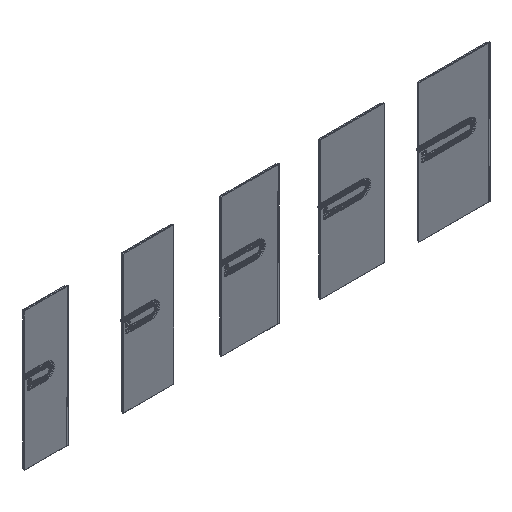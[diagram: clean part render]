
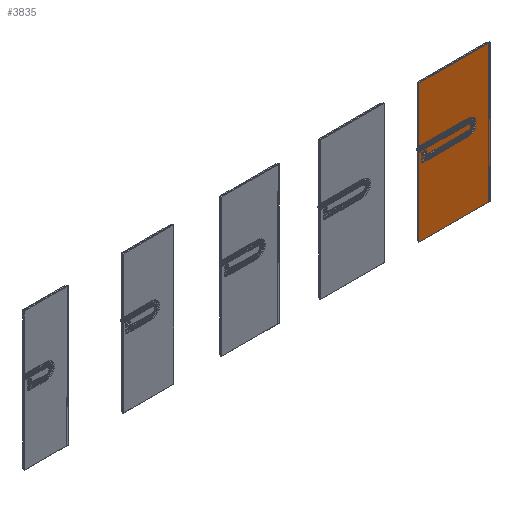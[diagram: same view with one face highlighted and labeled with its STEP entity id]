
A CAD part, isometric view. The second image highlights one B-rep face of the part: STEP entity #3835.
In plain terms, the highlighted planar face has unit normal (0, -1, 0).
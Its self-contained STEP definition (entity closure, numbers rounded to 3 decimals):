
#2323=FACE_OUTER_BOUND('',#7497,.T.);
#3835=ADVANCED_FACE('',(#2323),#4883,.F.);
#4883=PLANE('',#26441);
#5973=CIRCLE('',#26432,71.);
#5974=CIRCLE('',#26433,59.);
#5975=CIRCLE('',#26434,9.);
#5976=CIRCLE('',#26435,41.);
#5977=CIRCLE('',#26436,119.);
#5978=CIRCLE('',#26437,9.);
#5979=CIRCLE('',#26438,101.);
#5980=CIRCLE('',#26439,89.);
#5981=CIRCLE('',#26440,9.);
#7497=EDGE_LOOP('',(#11921,#11922,#11923,#11924,#11925,#11926,#11927,#11928,
#11929,#11930,#11931,#11932,#11933,#11934,#11935,#11936,#11937,#11938,#11939,
#11940,#11941,#11942,#11943,#11944,#11945,#11946,#11947,#11948));
#11921=ORIENTED_EDGE('',*,*,#19441,.T.);
#11922=ORIENTED_EDGE('',*,*,#19442,.T.);
#11923=ORIENTED_EDGE('',*,*,#19443,.T.);
#11924=ORIENTED_EDGE('',*,*,#19444,.F.);
#11925=ORIENTED_EDGE('',*,*,#19445,.F.);
#11926=ORIENTED_EDGE('',*,*,#19446,.F.);
#11927=ORIENTED_EDGE('',*,*,#19447,.F.);
#11928=ORIENTED_EDGE('',*,*,#19448,.T.);
#11929=ORIENTED_EDGE('',*,*,#19449,.T.);
#11930=ORIENTED_EDGE('',*,*,#19450,.T.);
#11931=ORIENTED_EDGE('',*,*,#19451,.T.);
#11932=ORIENTED_EDGE('',*,*,#19452,.T.);
#11933=ORIENTED_EDGE('',*,*,#19453,.F.);
#11934=ORIENTED_EDGE('',*,*,#19454,.F.);
#11935=ORIENTED_EDGE('',*,*,#19455,.T.);
#11936=ORIENTED_EDGE('',*,*,#19456,.F.);
#11937=ORIENTED_EDGE('',*,*,#19457,.F.);
#11938=ORIENTED_EDGE('',*,*,#19458,.F.);
#11939=ORIENTED_EDGE('',*,*,#19459,.F.);
#11940=ORIENTED_EDGE('',*,*,#19460,.T.);
#11941=ORIENTED_EDGE('',*,*,#19461,.T.);
#11942=ORIENTED_EDGE('',*,*,#19462,.T.);
#11943=ORIENTED_EDGE('',*,*,#19463,.T.);
#11944=ORIENTED_EDGE('',*,*,#19464,.F.);
#11945=ORIENTED_EDGE('',*,*,#19465,.F.);
#11946=ORIENTED_EDGE('',*,*,#19466,.F.);
#11947=ORIENTED_EDGE('',*,*,#19467,.F.);
#11948=ORIENTED_EDGE('',*,*,#19468,.T.);
#16601=VERTEX_POINT('',#40584);
#16602=VERTEX_POINT('',#40585);
#16603=VERTEX_POINT('',#40587);
#16604=VERTEX_POINT('',#40589);
#16605=VERTEX_POINT('',#40591);
#16606=VERTEX_POINT('',#40593);
#16607=VERTEX_POINT('',#40595);
#16608=VERTEX_POINT('',#40597);
#16609=VERTEX_POINT('',#40599);
#16610=VERTEX_POINT('',#40601);
#16611=VERTEX_POINT('',#40603);
#16612=VERTEX_POINT('',#40605);
#16613=VERTEX_POINT('',#40607);
#16614=VERTEX_POINT('',#40609);
#16615=VERTEX_POINT('',#40611);
#16616=VERTEX_POINT('',#40613);
#16617=VERTEX_POINT('',#40615);
#16618=VERTEX_POINT('',#40617);
#16619=VERTEX_POINT('',#40619);
#16620=VERTEX_POINT('',#40621);
#16621=VERTEX_POINT('',#40623);
#16622=VERTEX_POINT('',#40625);
#16623=VERTEX_POINT('',#40627);
#16624=VERTEX_POINT('',#40629);
#16625=VERTEX_POINT('',#40631);
#16626=VERTEX_POINT('',#40633);
#16627=VERTEX_POINT('',#40635);
#16628=VERTEX_POINT('',#40637);
#19441=EDGE_CURVE('',#16601,#16602,#5973,.T.);
#19442=EDGE_CURVE('',#16602,#16603,#22179,.T.);
#19443=EDGE_CURVE('',#16603,#16604,#22180,.T.);
#19444=EDGE_CURVE('',#16605,#16604,#22181,.T.);
#19445=EDGE_CURVE('',#16606,#16605,#5974,.T.);
#19446=EDGE_CURVE('',#16607,#16606,#22182,.T.);
#19447=EDGE_CURVE('',#16608,#16607,#5975,.T.);
#19448=EDGE_CURVE('',#16608,#16609,#22183,.T.);
#19449=EDGE_CURVE('',#16609,#16610,#5976,.T.);
#19450=EDGE_CURVE('',#16610,#16611,#22184,.T.);
#19451=EDGE_CURVE('',#16611,#16612,#22185,.T.);
#19452=EDGE_CURVE('',#16612,#16613,#22186,.T.);
#19453=EDGE_CURVE('',#16614,#16613,#22187,.T.);
#19454=EDGE_CURVE('',#16615,#16614,#22188,.T.);
#19455=EDGE_CURVE('',#16615,#16616,#22189,.T.);
#19456=EDGE_CURVE('',#16617,#16616,#22190,.T.);
#19457=EDGE_CURVE('',#16618,#16617,#5977,.T.);
#19458=EDGE_CURVE('',#16619,#16618,#22191,.T.);
#19459=EDGE_CURVE('',#16620,#16619,#5978,.T.);
#19460=EDGE_CURVE('',#16620,#16621,#22192,.T.);
#19461=EDGE_CURVE('',#16621,#16622,#5979,.T.);
#19462=EDGE_CURVE('',#16622,#16623,#22193,.T.);
#19463=EDGE_CURVE('',#16623,#16624,#22194,.T.);
#19464=EDGE_CURVE('',#16625,#16624,#22195,.T.);
#19465=EDGE_CURVE('',#16626,#16625,#5980,.T.);
#19466=EDGE_CURVE('',#16627,#16626,#22196,.T.);
#19467=EDGE_CURVE('',#16628,#16627,#5981,.T.);
#19468=EDGE_CURVE('',#16628,#16601,#22197,.T.);
#22179=LINE('',#40586,#24029);
#22180=LINE('',#40588,#24030);
#22181=LINE('',#40590,#24031);
#22182=LINE('',#40594,#24032);
#22183=LINE('',#40598,#24033);
#22184=LINE('',#40602,#24034);
#22185=LINE('',#40604,#24035);
#22186=LINE('',#40606,#24036);
#22187=LINE('',#40608,#24037);
#22188=LINE('',#40610,#24038);
#22189=LINE('',#40612,#24039);
#22190=LINE('',#40614,#24040);
#22191=LINE('',#40618,#24041);
#22192=LINE('',#40622,#24042);
#22193=LINE('',#40626,#24043);
#22194=LINE('',#40628,#24044);
#22195=LINE('',#40630,#24045);
#22196=LINE('',#40634,#24046);
#22197=LINE('',#40638,#24047);
#24029=VECTOR('',#31654,1.);
#24030=VECTOR('',#31655,1.);
#24031=VECTOR('',#31656,1.);
#24032=VECTOR('',#31659,1.);
#24033=VECTOR('',#31662,1.);
#24034=VECTOR('',#31665,1.);
#24035=VECTOR('',#31666,1.);
#24036=VECTOR('',#31667,1.);
#24037=VECTOR('',#31668,1.);
#24038=VECTOR('',#31669,1.);
#24039=VECTOR('',#31670,1.);
#24040=VECTOR('',#31671,1.);
#24041=VECTOR('',#31674,1.);
#24042=VECTOR('',#31677,1.);
#24043=VECTOR('',#31680,1.);
#24044=VECTOR('',#31681,1.);
#24045=VECTOR('',#31682,1.);
#24046=VECTOR('',#31685,1.);
#24047=VECTOR('',#31688,1.);
#26432=AXIS2_PLACEMENT_3D('',#40583,#31652,#31653);
#26433=AXIS2_PLACEMENT_3D('',#40592,#31657,#31658);
#26434=AXIS2_PLACEMENT_3D('',#40596,#31660,#31661);
#26435=AXIS2_PLACEMENT_3D('',#40600,#31663,#31664);
#26436=AXIS2_PLACEMENT_3D('',#40616,#31672,#31673);
#26437=AXIS2_PLACEMENT_3D('',#40620,#31675,#31676);
#26438=AXIS2_PLACEMENT_3D('',#40624,#31678,#31679);
#26439=AXIS2_PLACEMENT_3D('',#40632,#31683,#31684);
#26440=AXIS2_PLACEMENT_3D('',#40636,#31686,#31687);
#26441=AXIS2_PLACEMENT_3D('',#40639,#31689,#31690);
#31652=DIRECTION('',(0.,-1.,0.));
#31653=DIRECTION('',(0.,0.,-1.));
#31654=DIRECTION('',(-1.,0.,0.));
#31655=DIRECTION('',(0.,0.,-1.));
#31656=DIRECTION('',(-1.,0.,0.));
#31657=DIRECTION('',(0.,-1.,0.));
#31658=DIRECTION('',(0.,0.,-1.));
#31659=DIRECTION('',(1.,0.,0.));
#31660=DIRECTION('',(0.,-1.,0.));
#31661=DIRECTION('',(0.,0.,-1.));
#31662=DIRECTION('',(1.,0.,0.));
#31663=DIRECTION('',(0.,-1.,0.));
#31664=DIRECTION('',(0.,0.,-1.));
#31665=DIRECTION('',(-1.,0.,0.));
#31666=DIRECTION('',(0.,0.,-1.));
#31667=DIRECTION('',(1.,0.,0.));
#31668=DIRECTION('',(0.,0.,-1.));
#31669=DIRECTION('',(1.,0.,0.));
#31670=DIRECTION('',(0.,0.,-1.));
#31671=DIRECTION('',(-1.,0.,0.));
#31672=DIRECTION('',(0.,-1.,0.));
#31673=DIRECTION('',(0.,0.,-1.));
#31674=DIRECTION('',(1.,0.,0.));
#31675=DIRECTION('',(0.,-1.,0.));
#31676=DIRECTION('',(0.,0.,-1.));
#31677=DIRECTION('',(1.,0.,0.));
#31678=DIRECTION('',(0.,-1.,0.));
#31679=DIRECTION('',(0.,0.,-1.));
#31680=DIRECTION('',(-1.,0.,0.));
#31681=DIRECTION('',(0.,0.,-1.));
#31682=DIRECTION('',(-1.,0.,0.));
#31683=DIRECTION('',(0.,-1.,0.));
#31684=DIRECTION('',(0.,0.,-1.));
#31685=DIRECTION('',(1.,0.,0.));
#31686=DIRECTION('',(0.,-1.,0.));
#31687=DIRECTION('',(0.,0.,-1.));
#31688=DIRECTION('',(1.,0.,0.));
#31689=DIRECTION('',(0.,1.,0.));
#31690=DIRECTION('',(-1.,0.,0.));
#40583=CARTESIAN_POINT('',(6199.,-39.3,1104.));
#40584=CARTESIAN_POINT('',(6199.,-39.3,1033.));
#40585=CARTESIAN_POINT('',(6199.,-39.3,1175.));
#40586=CARTESIAN_POINT('',(6199.,-39.3,1175.));
#40587=CARTESIAN_POINT('',(5478.,-39.3,1175.));
#40588=CARTESIAN_POINT('',(5478.,-39.3,2030.));
#40589=CARTESIAN_POINT('',(5478.,-39.3,1163.));
#40590=CARTESIAN_POINT('',(6199.,-39.3,1163.));
#40591=CARTESIAN_POINT('',(6199.,-39.3,1163.));
#40592=CARTESIAN_POINT('',(6199.,-39.3,1104.));
#40593=CARTESIAN_POINT('',(6199.,-39.3,1045.));
#40594=CARTESIAN_POINT('',(5601.,-39.3,1045.));
#40595=CARTESIAN_POINT('',(5601.,-39.3,1045.));
#40596=CARTESIAN_POINT('',(5601.,-39.3,1054.));
#40597=CARTESIAN_POINT('',(5601.,-39.3,1063.));
#40598=CARTESIAN_POINT('',(5601.,-39.3,1063.));
#40599=CARTESIAN_POINT('',(6199.,-39.3,1063.));
#40600=CARTESIAN_POINT('',(6199.,-39.3,1104.));
#40601=CARTESIAN_POINT('',(6199.,-39.3,1145.));
#40602=CARTESIAN_POINT('',(6199.,-39.3,1145.));
#40603=CARTESIAN_POINT('',(5478.,-39.3,1145.));
#40604=CARTESIAN_POINT('',(5478.,-39.3,2030.));
#40605=CARTESIAN_POINT('',(5478.,-39.3,2.));
#40606=CARTESIAN_POINT('',(5678.,-39.3,2.));
#40607=CARTESIAN_POINT('',(6522.,-39.3,2.));
#40608=CARTESIAN_POINT('',(6522.,-39.3,2030.));
#40609=CARTESIAN_POINT('',(6522.,-39.3,2030.));
#40610=CARTESIAN_POINT('',(5678.,-39.3,2030.));
#40611=CARTESIAN_POINT('',(5478.,-39.3,2030.));
#40612=CARTESIAN_POINT('',(5478.,-39.3,2030.));
#40613=CARTESIAN_POINT('',(5478.,-39.3,1223.));
#40614=CARTESIAN_POINT('',(6199.,-39.3,1223.));
#40615=CARTESIAN_POINT('',(6199.,-39.3,1223.));
#40616=CARTESIAN_POINT('',(6199.,-39.3,1104.));
#40617=CARTESIAN_POINT('',(6199.,-39.3,985.));
#40618=CARTESIAN_POINT('',(5601.,-39.3,985.));
#40619=CARTESIAN_POINT('',(5601.,-39.3,985.));
#40620=CARTESIAN_POINT('',(5601.,-39.3,994.));
#40621=CARTESIAN_POINT('',(5601.,-39.3,1003.));
#40622=CARTESIAN_POINT('',(5601.,-39.3,1003.));
#40623=CARTESIAN_POINT('',(6199.,-39.3,1003.));
#40624=CARTESIAN_POINT('',(6199.,-39.3,1104.));
#40625=CARTESIAN_POINT('',(6199.,-39.3,1205.));
#40626=CARTESIAN_POINT('',(6199.,-39.3,1205.));
#40627=CARTESIAN_POINT('',(5478.,-39.3,1205.));
#40628=CARTESIAN_POINT('',(5478.,-39.3,2030.));
#40629=CARTESIAN_POINT('',(5478.,-39.3,1193.));
#40630=CARTESIAN_POINT('',(6199.,-39.3,1193.));
#40631=CARTESIAN_POINT('',(6199.,-39.3,1193.));
#40632=CARTESIAN_POINT('',(6199.,-39.3,1104.));
#40633=CARTESIAN_POINT('',(6199.,-39.3,1015.));
#40634=CARTESIAN_POINT('',(5601.,-39.3,1015.));
#40635=CARTESIAN_POINT('',(5601.,-39.3,1015.));
#40636=CARTESIAN_POINT('',(5601.,-39.3,1024.));
#40637=CARTESIAN_POINT('',(5601.,-39.3,1033.));
#40638=CARTESIAN_POINT('',(5601.,-39.3,1033.));
#40639=CARTESIAN_POINT('',(5678.,-39.3,2030.));
